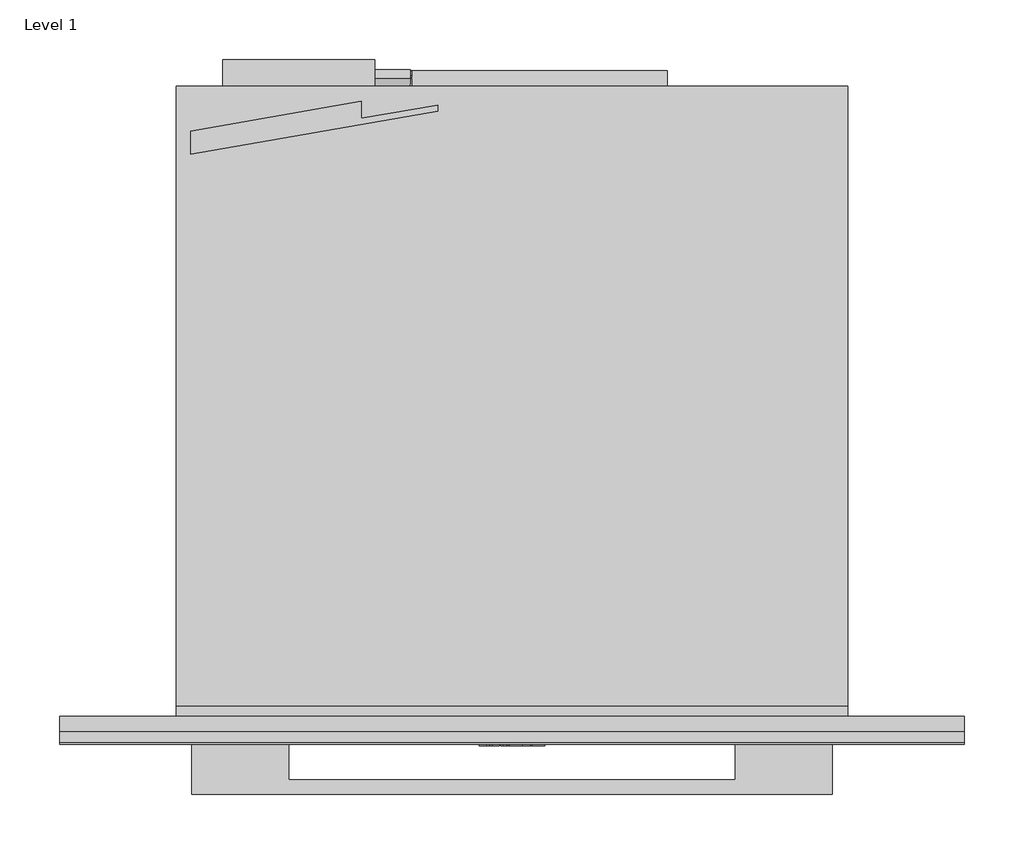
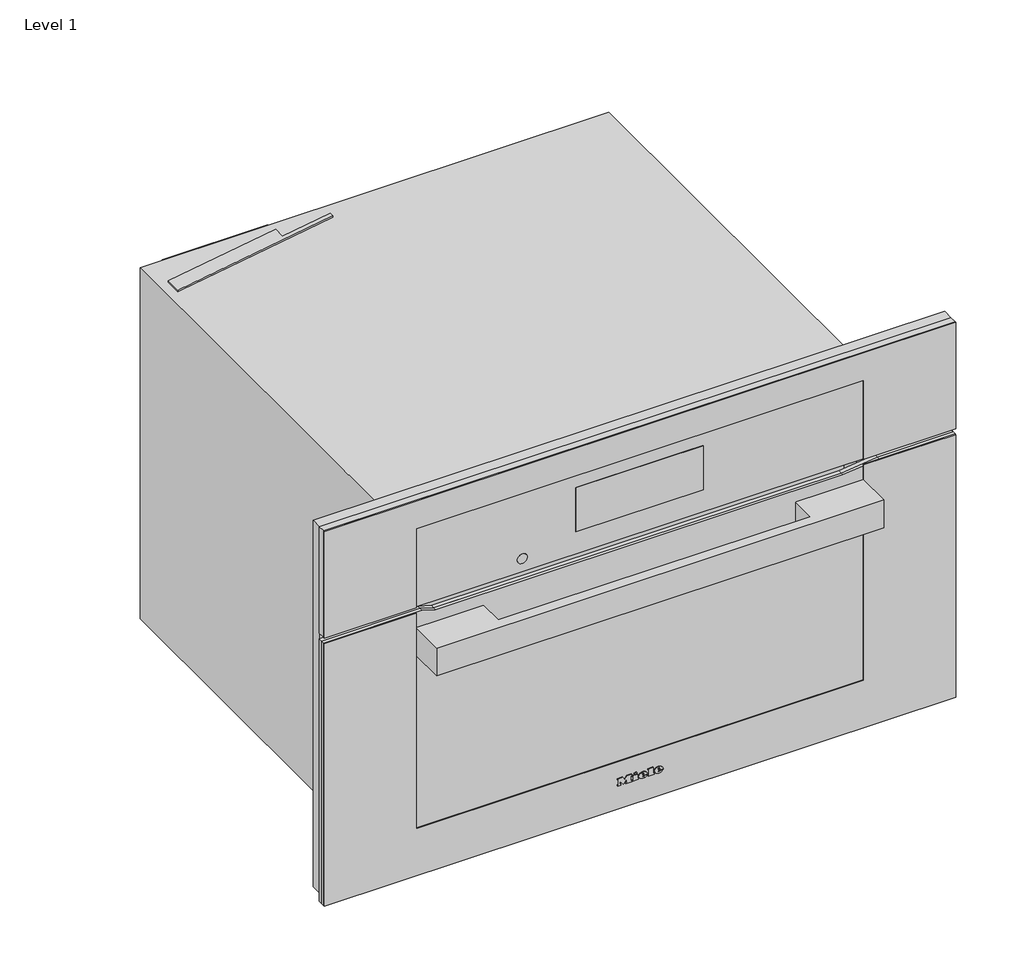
# One storey: 1 proxy.
"""IFC4 building model written with IfcOpenShell, lengths in millimetres."""

from ifc_helpers import new_model, si_unit, origin, place, context, project, spatial, transform, mapped, element, save
from components import specialty_equipment_66f69a2f

model = new_model("IFC4")

# Units and contexts
model_context = context("Model", 3, world=origin())
ifc_project = project(units=[si_unit("LENGTHUNIT", "METRE", prefix="MILLI")], contexts=[model_context])

# Site, building, storey
site = spatial("IfcSite", under=ifc_project)
building = spatial("IfcBuilding", under=site)
storey = spatial("IfcBuildingStorey", under=building, Name="Level 1", Elevation=0.0)

# Proxy
placement = place(None, origin())
specialty_equipment_shape = specialty_equipment_66f69a2f(model_context)
element("IfcBuildingElementProxy", 1, Name="11804620_USA_H7770BM_EDST-CLST : 22777046_USA_11804620_H7770BM_EDST-CLST", ObjectType="11804620_USA_H7770BM_EDST-CLST : 22777046_USA_11804620_H7770BM_EDST-CLST", at=placement, inside=storey, context=model_context, shape_type="MappedRepresentation", body=[
    mapped(specialty_equipment_shape, transform((0.0, 0.0, 0.0), x_axis=(1.0, 0.0, 0.0), y_axis=(0.0, 1.0, 0.0), z_axis=(0.0, 0.0, 1.0))),
])

save(model, "model.ifc")
